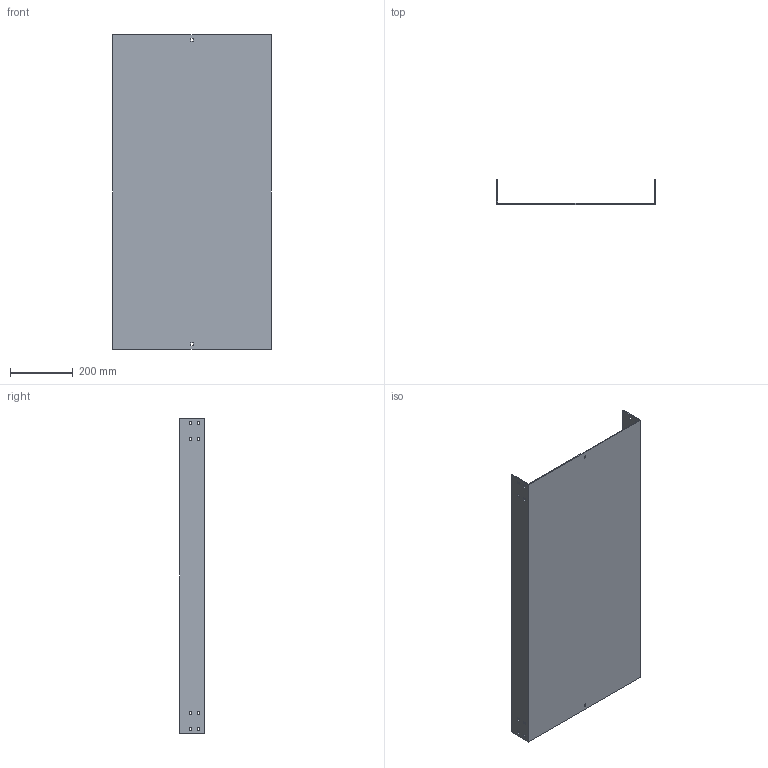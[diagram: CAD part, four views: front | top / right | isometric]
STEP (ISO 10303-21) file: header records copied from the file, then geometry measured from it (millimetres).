
FILE_DESCRIPTION (( 'STEP AP214' ), '1' );
FILE_NAME ('03F1C500.step', '2025-02-21T13:31:31', ( '' ), ( '' ), 'SwSTEP 2.0', 'SolidWorks 2023', '' );
FILE_SCHEMA (( 'AUTOMOTIVE_DESIGN' ));
Length unit declared in the file: millimetre
Products named in the file (1): 03F1C500
Bounding box: 504 x 79 x 1000 mm (x, y, z)
Volume: 2288170.5 mm3; surface area: 1321232 mm2
Topology: 1 solids, 1 shells, 82 faces, 240 edges, 160 vertices
Faces by surface type: plane 82
Entity records: 2759 total; most frequent: CARTESIAN_POINT 483, ORIENTED_EDGE 480, DIRECTION 406, VECTOR 240, LINE 240, EDGE_CURVE 240, VERTEX_POINT 160, EDGE_LOOP 118
